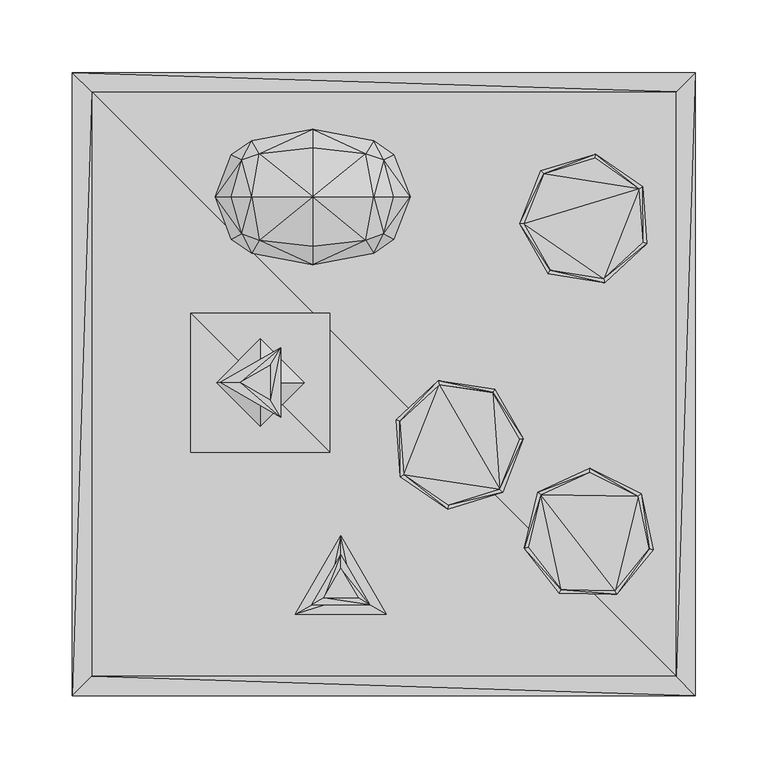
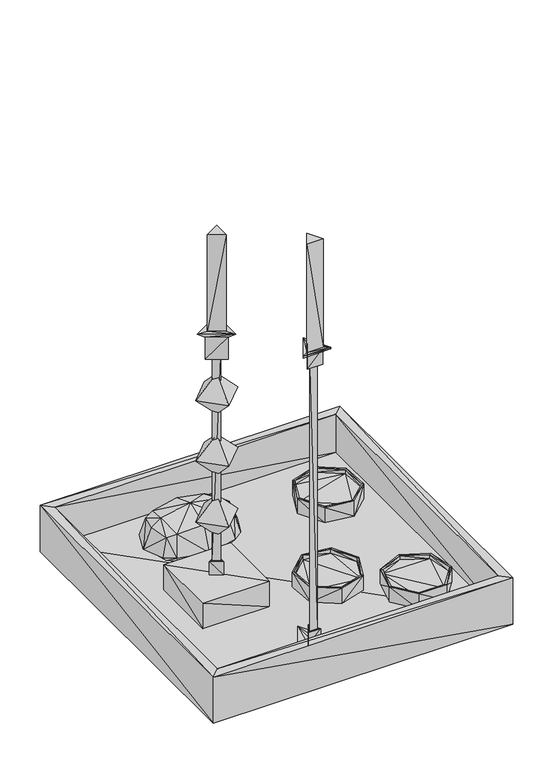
"""IFC4 building model written with IfcOpenShell, lengths in millimetres: geographic element geometry, Enscape AssetDefinition - Candle Tray : Enscape AssetDefinition - Candle Tray."""

from ifc_helpers import new_model, si_unit, origin, place, context, project, spatial, faceted_brep, source, transform, mapped, element, save


def geographic_element_3c1573c1(model_context):
    return source(origin(), model_context, "Body", "Brep", [
        faceted_brep([(-209.8062038, -214.7731632, 10.2268644), (-209.8062038, 215.6473845, 10.2268644), (220.6154913, -214.7731632, 10.2268644), (-209.8062038, 215.6473845, 80.5948526), (220.6154913, 215.6473845, 10.2268644), (220.6154913, 215.6473845, 80.5948526), (220.6154913, -214.7731632, 80.5948526), (-209.8062038, -214.7731632, 80.5948526), (-196.5218633, 202.3641616, 80.5948526), (207.3322684, 202.3641616, 80.5948526), (207.3322684, -201.4899701, 80.5948526), (-196.5218633, -201.4899701, 80.5948526), (207.3322684, 202.3641616, 23.0188947), (-196.5218633, 202.3641616, 23.0188947), (207.3322684, -201.4899701, 23.0188947), (-196.5218633, -201.4899701, 23.0188947)], [[[0, 1, 2]], [[1, 0, 3]], [[4, 1, 5]], [[2, 1, 4]], [[5, 1, 3]], [[2, 4, 6]], [[0, 2, 7]], [[7, 2, 6]], [[3, 0, 7]], [[8, 9, 3]], [[7, 8, 3]], [[3, 9, 5]], [[9, 10, 5]], [[6, 4, 5]], [[5, 10, 6]], [[10, 11, 6]], [[6, 11, 7]], [[11, 8, 7]], [[9, 8, 12]], [[8, 11, 13]], [[12, 8, 13]], [[10, 9, 14]], [[14, 9, 12]], [[11, 10, 15]], [[15, 10, 14]], [[13, 11, 15]], [[15, 14, 13]], [[13, 14, 12]]]),
        faceted_brep([(-189.0449077, -194.0130144, 3.4359922), (-189.0449077, 194.8872358, 3.4359922), (199.85421, -194.0130144, 3.4359922), (199.85421, 194.8872358, 11.4638219), (199.85421, -194.0130144, 11.4638219), (199.85421, 194.8872358, 3.4359922), (-189.0449077, -194.0130144, 11.4638219), (-189.0449077, 194.8872358, 11.4638219)], [[[0, 1, 2]], [[3, 4, 5]], [[6, 7, 0]], [[7, 3, 1]], [[4, 6, 2]], [[7, 6, 3]], [[2, 1, 5]], [[5, 4, 2]], [[0, 7, 1]], [[1, 3, 5]], [[2, 6, 0]], [[3, 6, 4]]]),
        faceted_brep([(-127.9439628, -46.5582609, 23.0188947), (-127.9439628, 49.4861752, 23.0188947), (-31.8995267, -46.5582609, 23.0188947), (-127.9439628, -46.5582609, 62.0540194), (-31.8995267, -46.5582609, 62.0540194), (-127.9439628, 49.4861752, 62.0540194), (-31.8995267, 49.4861752, 23.0188947), (-31.8995267, 49.4861752, 62.0540194)], [[[0, 1, 2]], [[3, 4, 5]], [[2, 6, 4]], [[1, 0, 5]], [[6, 1, 7]], [[0, 2, 3]], [[2, 1, 6]], [[5, 4, 7]], [[4, 6, 7]], [[5, 0, 3]], [[7, 1, 5]], [[3, 2, 4]]]),
        faceted_brep([(-74.7131184, -7.5580566, 62.0540194), (-90.3384387, 1.4633947, 62.0540194), (-74.7131184, 10.4859723, 62.0540194), (-90.3384387, 1.4633947, 82.9448551), (-74.7131184, 10.4859723, 82.9448551), (-74.7131184, -7.5580566, 82.9448551), (-76.8479332, -3.8607034, 82.9448551), (-86.0699192, 1.4633947, 82.9448551), (-76.8479332, 6.7886193, 82.9448551), (-76.8479332, -3.8607034, 392.2359645), (-86.0699192, 1.4633947, 392.2359645), (-76.8479332, 6.7886193, 392.2359645), (-71.6669112, -12.8337126, 392.2359645), (-96.4308381, 1.4633947, 392.2359645), (-71.6669112, 15.7616287, 392.2359645), (-71.6669112, -12.8337126, 426.0517955), (-71.6669112, 15.7616287, 426.0517955), (-96.4308381, 1.4633947, 426.0517955), (-66.0273805, 25.5288593, 434.1855049), (-66.0273805, -22.6020701, 434.1855049), (-107.709907, 1.4633947, 434.1855049), (-93.7271118, 1.4633947, 434.1855049), (-73.0187744, 13.419522, 434.1855049), (-73.0187744, -10.4916058, 434.1855049), (-93.7259793, 1.4633947, 580.6353688), (-73.0187744, -10.4916058, 580.6353688), (-73.0187744, 13.419522, 580.6353688)], [[[0, 1, 2]], [[1, 0, 3]], [[3, 2, 1]], [[4, 2, 3]], [[4, 0, 2]], [[5, 0, 4]], [[3, 0, 5]], [[5, 6, 3]], [[7, 8, 3]], [[3, 6, 7]], [[3, 8, 4]], [[8, 5, 4]], [[6, 5, 8]], [[6, 9, 7]], [[6, 8, 9]], [[7, 10, 8]], [[8, 10, 11]], [[9, 8, 11]], [[7, 9, 10]], [[9, 11, 12]], [[9, 12, 10]], [[10, 13, 11]], [[10, 12, 13]], [[12, 11, 14]], [[11, 13, 14]], [[15, 12, 16]], [[12, 15, 13]], [[16, 12, 14]], [[14, 13, 16]], [[13, 15, 17]], [[16, 13, 17]], [[16, 17, 18]], [[15, 16, 19]], [[19, 16, 18]], [[15, 19, 17]], [[18, 17, 20]], [[17, 19, 20]], [[20, 21, 18]], [[22, 23, 18]], [[18, 21, 22]], [[18, 23, 19]], [[23, 21, 19]], [[19, 21, 20]], [[24, 21, 25]], [[22, 21, 26]], [[25, 21, 23]], [[26, 21, 24]], [[23, 22, 25]], [[25, 22, 26]], [[26, 24, 25]]]),
        faceted_brep([(-79.9211785, -28.7575666, 150.0278115), (-79.9211785, 1.4633947, 180.7478368), (-110.1421416, 1.4633947, 150.0278115), (-79.9211785, 31.6843539, 150.0278115), (-49.7002192, 1.4633947, 150.0278115), (-79.9211785, 1.4633947, 119.3089187)], [[[0, 1, 2]], [[2, 1, 3]], [[3, 1, 4]], [[4, 1, 0]], [[5, 0, 2]], [[5, 2, 3]], [[5, 4, 0]], [[5, 3, 4]]]),
        faceted_brep([(-79.9211785, -28.7575666, 242.312938), (-79.9211785, 1.4633947, 273.0318308), (-110.1421416, 1.4633947, 242.312938), (-79.9211785, 31.6843539, 242.312938), (-49.7002192, 1.4633947, 242.312938), (-79.9211785, 1.4633947, 211.5940303)], [[[0, 1, 2]], [[2, 1, 3]], [[3, 1, 4]], [[4, 1, 0]], [[5, 0, 2]], [[5, 2, 3]], [[5, 4, 0]], [[5, 3, 4]]]),
        faceted_brep([(-79.9211785, -28.7575666, 334.5980644), (-79.9211785, 1.4633947, 365.3169572), (-110.1421416, 1.4633947, 334.5980644), (-79.9211785, 31.6843539, 334.5980644), (-49.7002192, 1.4633947, 334.5980644), (-79.9211785, 1.4633947, 303.8791716)], [[[0, 1, 2]], [[2, 1, 3]], [[3, 1, 4]], [[4, 1, 0]], [[5, 0, 2]], [[5, 2, 3]], [[5, 4, 0]], [[5, 3, 4]]]),
        faceted_brep([(-24.317814, -104.2074487, 25.6054644), (7.157003, -158.7248147, 25.6054644), (-24.317814, -104.2074487, 22.9265187), (-15.2963614, -145.7615644, 25.6054644), (-55.7926297, -158.7248147, 25.6054644), (7.157003, -158.7248147, 22.9265187), (-55.7926297, -158.7248147, 22.9265187), (-33.3392657, -145.7615644, 25.6054644), (-24.317814, -130.1351041, 25.6054644), (-15.2963614, -145.7615644, 43.9085998), (-24.317814, -130.1351041, 43.9085998), (-33.3392657, -145.7615644, 43.9085998), (-24.317814, -134.4047487, 43.9085998), (-29.6419095, -143.6267197, 43.9085998), (-18.9937148, -143.6267197, 43.9085998), (-24.317814, -134.4047487, 443.87725), (-29.6419095, -143.6267197, 443.87725), (-18.9937148, -143.6267197, 443.87725), (-24.317814, -127.5699437, 446.0672736), (-13.0747957, -147.043556, 446.0672736), (-35.5608314, -147.043556, 446.0672736), (-24.317814, -127.5699437, 469.0422118), (-13.0747957, -147.043556, 469.0422118), (-35.5608314, -147.043556, 469.0422118), (-24.317814, -117.4748838, 469.0422118), (-4.3316032, -152.0916522, 469.0422118), (-44.3040207, -152.0916522, 469.0422118), (-4.3316032, -152.0916522, 471.7662632), (-44.3040207, -152.0916522, 471.7662632), (-24.317814, -117.4748838, 471.7662632), (-36.1984596, -147.4119574, 471.7662632), (-24.317814, -126.8343031, 471.7662632), (-12.4371657, -147.4119574, 471.7662632), (-36.1984596, -147.4119574, 636.3299489), (-12.4371657, -147.4119574, 636.3299489), (-24.317814, -126.8343031, 636.3299489)], [[[0, 1, 2]], [[1, 3, 4]], [[1, 4, 5]], [[2, 1, 5]], [[0, 3, 1]], [[6, 2, 5]], [[6, 0, 2]], [[5, 4, 6]], [[4, 0, 6]], [[7, 0, 4]], [[4, 3, 7]], [[8, 3, 0]], [[8, 0, 7]], [[9, 3, 10]], [[3, 9, 7]], [[10, 3, 8]], [[8, 7, 10]], [[10, 7, 11]], [[7, 9, 11]], [[12, 10, 13]], [[12, 14, 10]], [[13, 10, 11]], [[10, 14, 9]], [[14, 13, 9]], [[9, 13, 11]], [[12, 13, 15]], [[13, 14, 16]], [[15, 13, 16]], [[12, 15, 14]], [[14, 15, 17]], [[16, 14, 17]], [[15, 16, 18]], [[15, 18, 17]], [[17, 19, 16]], [[16, 19, 20]], [[18, 16, 20]], [[17, 18, 19]], [[18, 20, 21]], [[18, 21, 19]], [[19, 22, 20]], [[19, 21, 22]], [[20, 22, 23]], [[21, 20, 23]], [[21, 23, 24]], [[24, 22, 21]], [[25, 22, 24]], [[25, 23, 22]], [[26, 23, 25]], [[24, 23, 26]], [[25, 24, 27]], [[26, 28, 24]], [[27, 24, 29]], [[24, 28, 29]], [[26, 25, 28]], [[28, 25, 27]], [[28, 27, 30]], [[29, 31, 27]], [[30, 27, 32]], [[27, 31, 32]], [[30, 29, 28]], [[31, 29, 30]], [[30, 32, 33]], [[30, 33, 31]], [[32, 31, 34]], [[31, 33, 35]], [[34, 31, 35]], [[33, 32, 34]], [[33, 34, 35]]]),
        faceted_brep([(85.5156556, -72.2797588, 39.866522), (43.6100662, 0.1227945, 39.866522), (19.1683322, -62.3525605, 39.866522), (80.4303885, -5.3860587, 39.866522), (43.6100662, 0.1227945, 46.2642275), (16.3463112, -25.2291951, 39.866522), (85.5156556, -72.2797588, 46.2642275), (99.0804955, -37.6077816, 39.866522), (49.9525703, -83.2918361, 39.866522), (80.4303885, -5.3860587, 46.2642275), (16.3463112, -25.2291951, 46.2642275), (42.8057052, 2.7217565, 46.2642275), (19.1683322, -62.3525605, 46.2642275), (16.8138314, -63.7156889, 46.2642275), (13.8126891, -24.2389552, 46.2642275), (13.8126891, -24.2389552, 23.0188947), (81.9602385, -3.1363287, 46.2642275), (42.8057052, 2.7217565, 23.0188947), (16.8138314, -63.7156889, 23.0188947), (49.549263, -85.982047, 46.2642275), (49.9525703, -83.2918361, 46.2642275), (87.3688385, -74.2715076, 46.2642275), (49.549263, -85.982047, 23.0188947), (87.3688385, -74.2715076, 23.0188947), (101.793237, -37.4016203, 46.2642275), (99.0804955, -37.6077816, 46.2642275), (81.9602385, -3.1363287, 23.0188947), (101.793237, -37.4016203, 23.0188947)], [[[0, 1, 2]], [[1, 3, 4]], [[1, 4, 5]], [[0, 3, 1]], [[2, 1, 5]], [[0, 6, 7]], [[0, 7, 3]], [[0, 2, 8]], [[8, 6, 0]], [[7, 9, 3]], [[4, 3, 9]], [[5, 4, 10]], [[4, 11, 10]], [[4, 9, 11]], [[10, 12, 5]], [[5, 12, 2]], [[12, 10, 13]], [[13, 10, 14]], [[10, 11, 14]], [[14, 11, 15]], [[11, 16, 17]], [[11, 9, 16]], [[15, 11, 17]], [[15, 18, 14]], [[14, 18, 13]], [[13, 18, 19]], [[19, 12, 13]], [[12, 20, 2]], [[20, 12, 19]], [[19, 21, 20]], [[19, 18, 22]], [[22, 21, 19]], [[22, 18, 15]], [[22, 15, 17]], [[17, 23, 22]], [[23, 21, 22]], [[21, 23, 24]], [[21, 24, 6]], [[20, 21, 6]], [[20, 6, 8]], [[2, 20, 8]], [[7, 6, 25]], [[6, 24, 25]], [[25, 9, 7]], [[25, 24, 9]], [[9, 24, 16]], [[24, 26, 16]], [[17, 16, 26]], [[27, 26, 24]], [[27, 17, 26]], [[24, 23, 27]], [[17, 27, 23]]]),
        faceted_brep([(-85.878402, 168.6193496, 32.0088007), (-80.6005001, 159.4852507, 61.3702014), (-43.8252352, 176.4714271, 30.9757534), (-85.878402, 129.7205389, 70.0694546), (-43.8252352, 129.7205389, 78.1412199), (-43.8252352, 163.7571454, 65.4100254), (-92.858538, 155.232504, 57.4441552), (-99.8972505, 129.7205389, 60.751725), (-80.6005001, 99.955827, 61.3702014), (-92.858538, 104.2074487, 57.4441552), (-99.8972505, 158.8949263, 32.0088007), (-111.2157479, 129.7205389, 30.9757534), (-99.8972505, 100.5450189, 32.0088007), (-85.878402, 90.8206031, 32.0088007), (-43.8252352, 95.6828147, 65.4100254), (-43.8252352, 82.9685107, 30.9757534), (-92.858538, 104.2074487, 23.0876133), (-80.6005001, 95.7030803, 23.0876133), (-99.8972505, 129.7205389, 23.0876133), (-80.6005001, 163.7368649, 23.0876133), (-92.858538, 155.232504, 23.0876133), (-43.8252352, 90.8206031, 23.0876133), (-43.8252352, 168.6193496, 23.0876133), (-1.7709442, 168.6193496, 32.0088007), (-7.0488537, 159.4852507, 61.3702014), (-7.0488537, 163.7368649, 23.0876133), (-7.0488537, 95.7030803, 23.0876133), (12.2479042, 129.7205389, 23.0876133), (5.2091894, 155.232504, 23.0876133), (12.2479042, 158.8949263, 32.0088007), (5.2091894, 155.232504, 57.4441552), (5.2091894, 104.2074487, 23.0876133), (12.2479042, 100.5450189, 32.0088007), (23.5652756, 129.7205389, 30.9757534), (-1.7709442, 129.7205389, 70.0694546), (12.2479042, 129.7205389, 60.751725), (5.2091894, 104.2074487, 57.4441552), (-1.7709442, 90.8206031, 32.0088007), (-7.0488537, 99.955827, 61.3702014)], [[[0, 1, 2]], [[3, 4, 1]], [[2, 1, 5]], [[0, 6, 1]], [[1, 4, 5]], [[6, 3, 1]], [[7, 3, 6]], [[8, 3, 9]], [[8, 4, 3]], [[9, 3, 7]], [[10, 6, 0]], [[10, 11, 6]], [[6, 11, 7]], [[11, 9, 7]], [[12, 9, 11]], [[12, 13, 9]], [[9, 13, 8]], [[14, 4, 8]], [[13, 15, 8]], [[8, 15, 14]], [[12, 16, 13]], [[17, 15, 13]], [[13, 16, 17]], [[16, 12, 18]], [[18, 12, 11]], [[10, 18, 11]], [[19, 17, 18]], [[20, 18, 10]], [[18, 17, 16]], [[19, 18, 20]], [[21, 15, 17]], [[19, 21, 17]], [[22, 19, 2]], [[19, 20, 0]], [[21, 19, 22]], [[2, 19, 0]], [[0, 20, 10]], [[23, 2, 24]], [[22, 2, 25]], [[24, 2, 5]], [[25, 2, 23]], [[21, 22, 25]], [[25, 26, 21]], [[27, 26, 25]], [[27, 25, 28]], [[23, 28, 25]], [[29, 23, 30]], [[29, 28, 23]], [[30, 23, 24]], [[28, 29, 27]], [[31, 27, 32]], [[26, 27, 31]], [[32, 27, 33]], [[27, 29, 33]], [[29, 30, 33]], [[24, 34, 30]], [[33, 30, 35]], [[30, 34, 35]], [[32, 33, 36]], [[36, 33, 35]], [[32, 36, 37]], [[37, 31, 32]], [[26, 31, 37]], [[37, 38, 15]], [[37, 36, 38]], [[15, 26, 37]], [[38, 36, 34]], [[34, 36, 35]], [[34, 24, 4]], [[4, 38, 34]], [[4, 24, 5]], [[14, 38, 4]], [[15, 38, 14]], [[21, 26, 15]]]),
        faceted_brep([(181.9498837, 135.5290562, 39.866522), (101.9070223, 111.2123653, 39.866522), (157.1735442, 73.1855035, 39.866522), (115.6555042, 145.8111107, 39.866522), (101.9070223, 111.2123653, 46.2642275), (120.3836501, 78.8915083, 39.866522), (181.9498837, 135.5290562, 46.2642275), (151.2783021, 156.6328108, 39.866522), (184.5736206, 98.3921736, 39.866522), (115.6555042, 145.8111107, 46.2642275), (120.3836501, 78.8915083, 46.2642275), (99.1920307, 111.0208556, 46.2642275), (157.1735442, 73.1855035, 46.2642275), (157.9643935, 70.5820397, 46.2642275), (118.8413948, 76.6496658, 46.2642275), (118.8413948, 76.6496658, 23.0188947), (113.8135865, 147.8130072, 46.2642275), (99.1920307, 111.0208556, 23.0188947), (157.9643935, 70.5820397, 23.0188947), (187.1016026, 97.387284, 46.2642275), (184.5736206, 98.3921736, 46.2642275), (184.3111366, 136.8798018, 46.2642275), (187.1016026, 97.387284, 23.0188947), (184.3111366, 136.8798018, 23.0188947), (151.6951174, 159.3207717, 46.2642275), (151.2783021, 156.6328108, 46.2642275), (113.8135865, 147.8130072, 23.0188947), (151.6951174, 159.3207717, 23.0188947)], [[[0, 1, 2]], [[1, 3, 4]], [[1, 4, 5]], [[0, 3, 1]], [[2, 1, 5]], [[0, 6, 7]], [[0, 7, 3]], [[0, 2, 8]], [[8, 6, 0]], [[7, 9, 3]], [[4, 3, 9]], [[5, 4, 10]], [[4, 11, 10]], [[4, 9, 11]], [[10, 12, 5]], [[5, 12, 2]], [[12, 10, 13]], [[13, 10, 14]], [[10, 11, 14]], [[14, 11, 15]], [[11, 16, 17]], [[11, 9, 16]], [[15, 11, 17]], [[15, 18, 14]], [[14, 18, 13]], [[13, 18, 19]], [[19, 12, 13]], [[12, 20, 2]], [[20, 12, 19]], [[19, 21, 20]], [[19, 18, 22]], [[22, 21, 19]], [[22, 18, 15]], [[22, 15, 17]], [[17, 23, 22]], [[23, 21, 22]], [[21, 23, 24]], [[21, 24, 6]], [[20, 21, 6]], [[20, 6, 8]], [[2, 20, 8]], [[7, 6, 25]], [[6, 24, 25]], [[25, 9, 7]], [[25, 24, 9]], [[9, 24, 16]], [[24, 26, 16]], [[17, 16, 26]], [[27, 26, 24]], [[27, 17, 26]], [[24, 23, 27]], [[17, 27, 23]]]),
        faceted_brep([(113.8631478, -76.0751218, 39.866522), (165.1157737, -142.190367, 39.866522), (180.9438467, -76.9988894, 39.866522), (127.8898865, -141.6777968, 39.866522), (165.1157737, -142.190367, 46.2642275), (188.7272298, -113.4057716, 39.866522), (113.8642728, -76.0751218, 46.2642275), (105.08053, -112.2533008, 39.866522), (147.6259977, -60.3844672, 39.866522), (127.8898865, -141.6777968, 46.2642275), (188.7272298, -113.4057716, 46.2642275), (166.2625968, -144.6586549, 46.2642275), (180.9438467, -76.9988894, 46.2642275), (183.0933243, -75.3315911, 46.2642275), (191.3712472, -114.0479073, 46.2642275), (191.3712472, -114.0479073, 23.0188947), (126.6754568, -144.1133916, 46.2642275), (166.2625968, -144.6586549, 23.0188947), (183.0933243, -75.3315911, 23.0188947), (147.6631761, -57.6638356, 46.2642275), (147.6259977, -60.3844672, 46.2642275), (111.7598787, -74.3492395, 46.2642275), (147.6631761, -57.6638356, 23.0188947), (111.7598787, -74.3492395, 23.0188947), (102.4196148, -112.8222123, 46.2642275), (105.08053, -112.2533008, 46.2642275), (126.6754568, -144.1133916, 23.0188947), (102.4196148, -112.8222123, 23.0188947)], [[[0, 1, 2]], [[1, 3, 4]], [[1, 4, 5]], [[0, 3, 1]], [[2, 1, 5]], [[0, 6, 7]], [[0, 7, 3]], [[0, 2, 8]], [[8, 6, 0]], [[7, 9, 3]], [[4, 3, 9]], [[5, 4, 10]], [[4, 11, 10]], [[4, 9, 11]], [[10, 12, 5]], [[5, 12, 2]], [[12, 10, 13]], [[13, 10, 14]], [[10, 11, 14]], [[14, 11, 15]], [[11, 16, 17]], [[11, 9, 16]], [[15, 11, 17]], [[15, 18, 14]], [[14, 18, 13]], [[13, 18, 19]], [[19, 12, 13]], [[12, 20, 2]], [[20, 12, 19]], [[19, 21, 20]], [[19, 18, 22]], [[22, 21, 19]], [[22, 18, 15]], [[22, 15, 17]], [[17, 23, 22]], [[23, 21, 22]], [[21, 23, 24]], [[21, 24, 6]], [[20, 21, 6]], [[20, 6, 8]], [[2, 20, 8]], [[7, 6, 25]], [[6, 24, 25]], [[25, 9, 7]], [[25, 24, 9]], [[9, 24, 16]], [[24, 26, 16]], [[17, 16, 26]], [[27, 26, 24]], [[27, 17, 26]], [[24, 23, 27]], [[17, 27, 23]]]),
    ])


if __name__ == "__main__":
    model = new_model("IFC4")
    model_context = context("Model", 3, world=origin())
    ifc_project = project(units=[si_unit("LENGTHUNIT", "METRE", prefix="MILLI")], contexts=[model_context])
    site = spatial("IfcSite", under=ifc_project)
    building = spatial("IfcBuilding", under=site)
    placement = place(None, origin())
    geographic_element_shape = geographic_element_3c1573c1(model_context)
    element("IfcGeographicElement", 1, ObjectType="Enscape AssetDefinition - Candle Tray : Enscape AssetDefinition - Candle Tray", at=placement, inside=building, context=model_context, shape_type="MappedRepresentation", body=[
        mapped(geographic_element_shape, transform((0.0, 0.0, 0.0), x_axis=(1.0, 0.0, 0.0), y_axis=(0.0, 1.0, 0.0), z_axis=(0.0, 0.0, 1.0))),
    ])
    save(model, "model.ifc")
